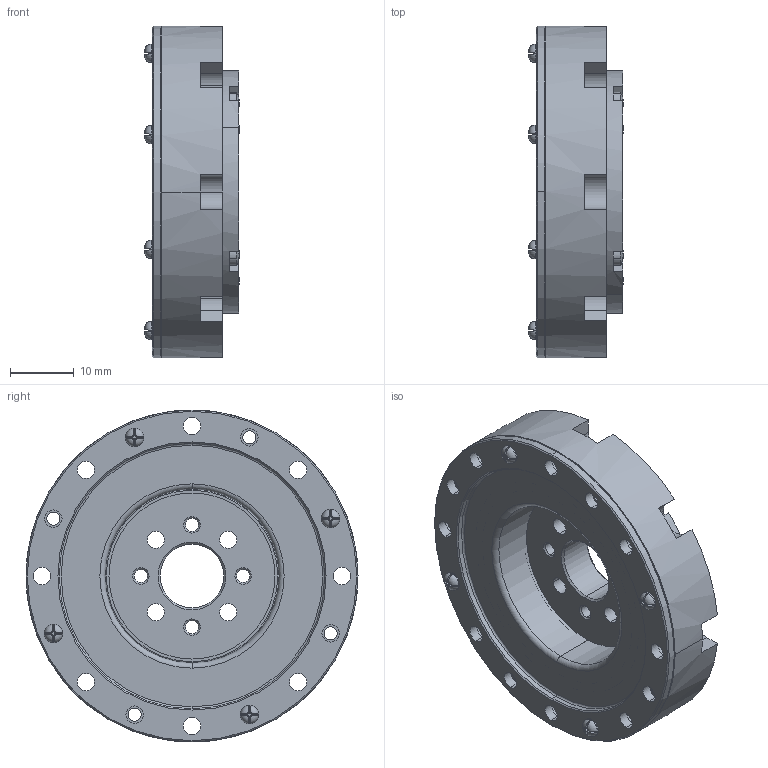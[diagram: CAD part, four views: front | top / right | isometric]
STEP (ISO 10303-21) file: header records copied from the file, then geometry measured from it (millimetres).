
FILE_DESCRIPTION (( 'STEP AP214' ), '1' );
FILE_NAME ('SHD-11-xxx.STEP', '2022-10-31T08:44:40', ( 'PC' ), ( 'Microsoft' ), 'SwSTEP 2.0', 'SolidWorks 2016', '' );
FILE_SCHEMA (( 'AUTOMOTIVE_DESIGN' ));
Length unit declared in the file: millimetre
Products named in the file (15): 39x1.5O型圈_預設; M1.6-蹟隊_蕼偞; 2.5-幗紩_蕼偞; B-2.5-幗紩_蕼偞; SHD-11蝠脫粣創黑芛; SHD-11交叉轴承内圈; SHD-11交叉轴承外圈; SHD-11-xxx; 坋趼羞蹟隊M2℅6]_蕼偞; SHD-11-疏楷汜ん_蕼偞; SHD-11-柔性轴承_預設; SHD-11-xxx-芧謫_蕼偞; SHD-11-02柔轮_預設; SHD-11-01詩謫; SHD-11蝠脫粣創_蕼偞
Assembly tree (67 placements, depth 3):
  SHD-11-xxx
    SHD-11蝠脫粣創_蕼偞
      SHD-11交叉轴承外圈
      SHD-11交叉轴承内圈
      SHD-11蝠脫粣創黑芛
      B-2.5-幗紩_蕼偞  x24
      2.5-幗紩_蕼偞  x24
      M1.6-蹟隊_蕼偞
      39x1.5O型圈_預設
    SHD-11-01詩謫
    M1.6-蹟隊_蕼偞  x4
    SHD-11-02柔轮_預設
    SHD-11-疏楷汜ん_蕼偞
      SHD-11-xxx-芧謫_蕼偞
      SHD-11-柔性轴承_預設
    坋趼羞蹟隊M2℅6]_蕼偞  x4
Bounding box: 14.78 x 52 x 52 mm (x, y, z)
Volume: 16946.6 mm3; surface area: 22342 mm2
Topology: 65 solids, 65 shells, 1087 faces, 2377 edges, 1433 vertices
Faces by surface type: cylinder 360, plane 339, torus 240, cone 128, bspline 20
Entity records: 16613 total; most frequent: DIRECTION 2934, CARTESIAN_POINT 2894, ORIENTED_EDGE 2390, AXIS2_PLACEMENT_3D 1223, EDGE_CURVE 1195, VERTEX_POINT 753, CIRCLE 661, EDGE_LOOP 652
